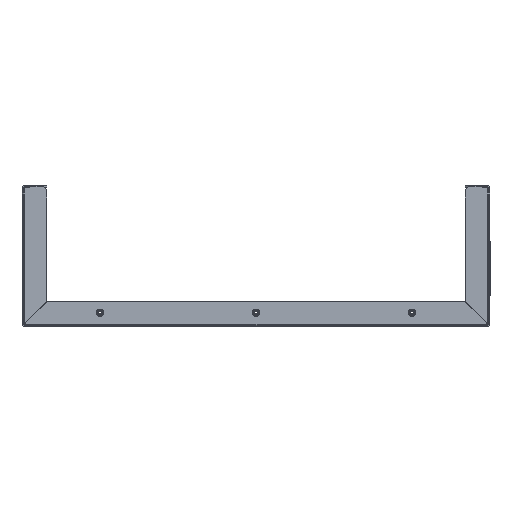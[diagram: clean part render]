
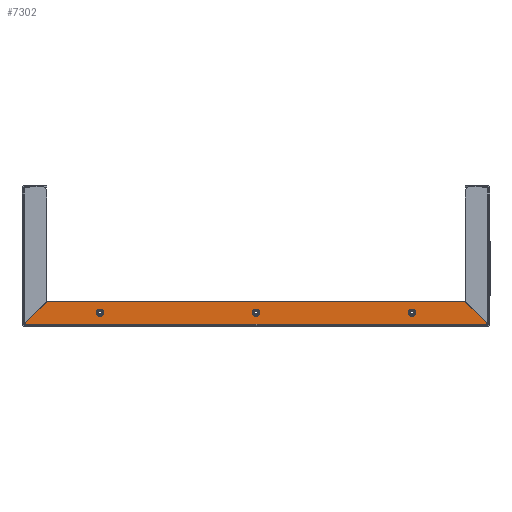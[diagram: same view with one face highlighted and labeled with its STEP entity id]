
A CAD part, left-side view. The second image highlights one B-rep face of the part: STEP entity #7302.
In plain terms, the highlighted planar face has unit normal (-1, 0, 0).
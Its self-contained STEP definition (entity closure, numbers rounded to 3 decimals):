
#782 = AXIS2_PLACEMENT_3D ( 'NONE', #4603, #80917, #74100 ) ;
#1132 = EDGE_LOOP ( 'NONE', ( #32166, #73058, #83988, #53662 ) ) ;
#1262 = VECTOR ( 'NONE', #39535, 1000. ) ;
#1290 = ORIENTED_EDGE ( 'NONE', *, *, #54136, .T. ) ;
#1841 = DIRECTION ( 'NONE',  ( 0., -1., 0. ) ) ;
#4441 = CARTESIAN_POINT ( 'NONE',  ( -61.964, 331.071, -41.655 ) ) ;
#4603 = CARTESIAN_POINT ( 'NONE',  ( -61.964, -31.946, -1.772 ) ) ;
#4893 = DIRECTION ( 'NONE',  ( 0., 0.707, -0.707 ) ) ;
#5261 = VERTEX_POINT ( 'NONE', #6554 ) ;
#6554 = CARTESIAN_POINT ( 'NONE',  ( -61.964, -96.725, -11.418 ) ) ;
#7302 = ADVANCED_FACE ( 'NONE', ( #57083, #9371, #83888, #23459 ), #36646, .T. ) ;
#7385 = CIRCLE ( 'NONE', #42167, 2.1 ) ;
#8864 = DIRECTION ( 'NONE',  ( 1., 0., 0. ) ) ;
#8872 = CARTESIAN_POINT ( 'NONE',  ( -61.964, -29.846, -1.772 ) ) ;
#9371 = FACE_BOUND ( 'NONE', #60777, .T. ) ;
#9477 = CIRCLE ( 'NONE', #32710, 2.1 ) ;
#9939 = CIRCLE ( 'NONE', #40432, 2.1 ) ;
#11269 = LINE ( 'NONE', #4441, #46238 ) ;
#12718 = DIRECTION ( 'NONE',  ( 0., -1., 0. ) ) ;
#13741 = EDGE_CURVE ( 'NONE', #83248, #36152, #35641, .T. ) ;
#14238 = LINE ( 'NONE', #41514, #62616 ) ;
#17095 = CARTESIAN_POINT ( 'NONE',  ( -61.964, -77.434, 7.873 ) ) ;
#18141 = CARTESIAN_POINT ( 'NONE',  ( -61.964, 238.154, -1.772 ) ) ;
#19087 = LINE ( 'NONE', #47691, #26092 ) ;
#21679 = CARTESIAN_POINT ( 'NONE',  ( -61.964, 490.454, 5.55 ) ) ;
#22396 = DIRECTION ( 'NONE',  ( 0., -0.707, -0.707 ) ) ;
#22755 = CARTESIAN_POINT ( 'NONE',  ( -61.964, 236.054, -1.772 ) ) ;
#23084 = CARTESIAN_POINT ( 'NONE',  ( -61.964, -34.046, -1.772 ) ) ;
#23459 = FACE_BOUND ( 'NONE', #64187, .T. ) ;
#23957 = CIRCLE ( 'NONE', #28297, 2.1 ) ;
#24285 = CIRCLE ( 'NONE', #27191, 2.1 ) ;
#26092 = VECTOR ( 'NONE', #12718, 1000. ) ;
#27191 = AXIS2_PLACEMENT_3D ( 'NONE', #22755, #43657, #1841 ) ;
#27334 = CARTESIAN_POINT ( 'NONE',  ( -61.964, 102.054, -1.772 ) ) ;
#28297 = AXIS2_PLACEMENT_3D ( 'NONE', #63386, #50660, #49314 ) ;
#29423 = CARTESIAN_POINT ( 'NONE',  ( -61.964, 104.154, -1.772 ) ) ;
#29829 = DIRECTION ( 'NONE',  ( 0., 0., -1. ) ) ;
#32166 = ORIENTED_EDGE ( 'NONE', *, *, #73095, .T. ) ;
#32710 = AXIS2_PLACEMENT_3D ( 'NONE', #71553, #8864, #86081 ) ;
#32771 = ORIENTED_EDGE ( 'NONE', *, *, #45556, .T. ) ;
#32846 = VERTEX_POINT ( 'NONE', #17095 ) ;
#33817 = CARTESIAN_POINT ( 'NONE',  ( -61.964, 300.834, -11.418 ) ) ;
#35641 = CIRCLE ( 'NONE', #782, 2.1 ) ;
#36152 = VERTEX_POINT ( 'NONE', #23084 ) ;
#36646 = PLANE ( 'NONE',  #74370 ) ;
#37440 = CARTESIAN_POINT ( 'NONE',  ( -61.964, 281.543, 7.873 ) ) ;
#38025 = VERTEX_POINT ( 'NONE', #48363 ) ;
#39425 = ORIENTED_EDGE ( 'NONE', *, *, #73773, .T. ) ;
#39535 = DIRECTION ( 'NONE',  ( 0., 1., 0. ) ) ;
#40378 = ORIENTED_EDGE ( 'NONE', *, *, #71735, .T. ) ;
#40432 = AXIS2_PLACEMENT_3D ( 'NONE', #27334, #62722, #78137 ) ;
#41514 = CARTESIAN_POINT ( 'NONE',  ( -61.964, 68.574, 153.881 ) ) ;
#42167 = AXIS2_PLACEMENT_3D ( 'NONE', #80265, #45761, #51227 ) ;
#43626 = EDGE_CURVE ( 'NONE', #81659, #52803, #9477, .T. ) ;
#43657 = DIRECTION ( 'NONE',  ( 1., 0., 0. ) ) ;
#45556 = EDGE_CURVE ( 'NONE', #64453, #38025, #24285, .T. ) ;
#45761 = DIRECTION ( 'NONE',  ( 1., 0., 0. ) ) ;
#46238 = VECTOR ( 'NONE', #4893, 1000. ) ;
#47691 = CARTESIAN_POINT ( 'NONE',  ( -61.964, 366.336, -11.418 ) ) ;
#48363 = CARTESIAN_POINT ( 'NONE',  ( -61.964, 233.954, -1.772 ) ) ;
#48389 = EDGE_CURVE ( 'NONE', #32846, #49340, #53168, .T. ) ;
#48756 = EDGE_CURVE ( 'NONE', #49340, #77333, #11269, .T. ) ;
#49314 = DIRECTION ( 'NONE',  ( 0., -1., 0. ) ) ;
#49340 = VERTEX_POINT ( 'NONE', #37440 ) ;
#50660 = DIRECTION ( 'NONE',  ( 1., 0., 0. ) ) ;
#51171 = DIRECTION ( 'NONE',  ( -1., 0., 0. ) ) ;
#51227 = DIRECTION ( 'NONE',  ( 0., -1., 0. ) ) ;
#52803 = VERTEX_POINT ( 'NONE', #56676 ) ;
#53168 = LINE ( 'NONE', #80858, #1262 ) ;
#53662 = ORIENTED_EDGE ( 'NONE', *, *, #48756, .T. ) ;
#54136 = EDGE_CURVE ( 'NONE', #36152, #83248, #7385, .T. ) ;
#56676 = CARTESIAN_POINT ( 'NONE',  ( -61.964, 99.954, -1.772 ) ) ;
#57083 = FACE_OUTER_BOUND ( 'NONE', #1132, .T. ) ;
#58203 = ORIENTED_EDGE ( 'NONE', *, *, #13741, .T. ) ;
#60777 = EDGE_LOOP ( 'NONE', ( #39425, #32771 ) ) ;
#60886 = ORIENTED_EDGE ( 'NONE', *, *, #43626, .T. ) ;
#62616 = VECTOR ( 'NONE', #22396, 1000. ) ;
#62722 = DIRECTION ( 'NONE',  ( 1., 0., 0. ) ) ;
#63386 = CARTESIAN_POINT ( 'NONE',  ( -61.964, 236.054, -1.772 ) ) ;
#64187 = EDGE_LOOP ( 'NONE', ( #40378, #60886 ) ) ;
#64453 = VERTEX_POINT ( 'NONE', #18141 ) ;
#71553 = CARTESIAN_POINT ( 'NONE',  ( -61.964, 102.054, -1.772 ) ) ;
#71735 = EDGE_CURVE ( 'NONE', #52803, #81659, #9939, .T. ) ;
#73058 = ORIENTED_EDGE ( 'NONE', *, *, #82456, .F. ) ;
#73095 = EDGE_CURVE ( 'NONE', #77333, #5261, #19087, .T. ) ;
#73773 = EDGE_CURVE ( 'NONE', #38025, #64453, #23957, .T. ) ;
#74100 = DIRECTION ( 'NONE',  ( 0., -1., 0. ) ) ;
#74370 = AXIS2_PLACEMENT_3D ( 'NONE', #21679, #51171, #29829 ) ;
#77333 = VERTEX_POINT ( 'NONE', #33817 ) ;
#78137 = DIRECTION ( 'NONE',  ( 0., -1., 0. ) ) ;
#80265 = CARTESIAN_POINT ( 'NONE',  ( -61.964, -31.946, -1.772 ) ) ;
#80858 = CARTESIAN_POINT ( 'NONE',  ( -61.964, 366.512, 7.873 ) ) ;
#80917 = DIRECTION ( 'NONE',  ( 1., 0., 0. ) ) ;
#81659 = VERTEX_POINT ( 'NONE', #29423 ) ;
#82456 = EDGE_CURVE ( 'NONE', #32846, #5261, #14238, .T. ) ;
#83248 = VERTEX_POINT ( 'NONE', #8872 ) ;
#83888 = FACE_BOUND ( 'NONE', #86448, .T. ) ;
#83988 = ORIENTED_EDGE ( 'NONE', *, *, #48389, .T. ) ;
#86081 = DIRECTION ( 'NONE',  ( 0., -1., 0. ) ) ;
#86448 = EDGE_LOOP ( 'NONE', ( #1290, #58203 ) ) ;
